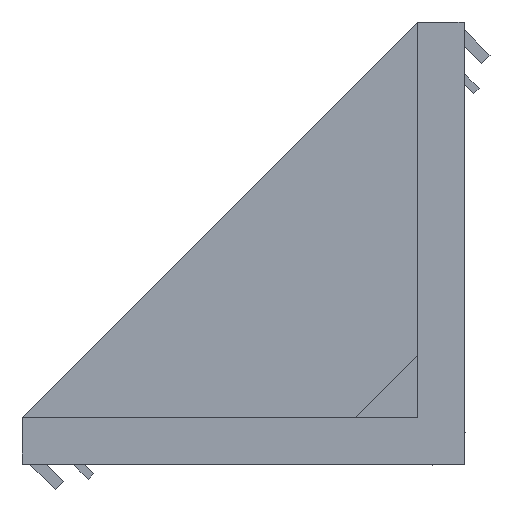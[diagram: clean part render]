
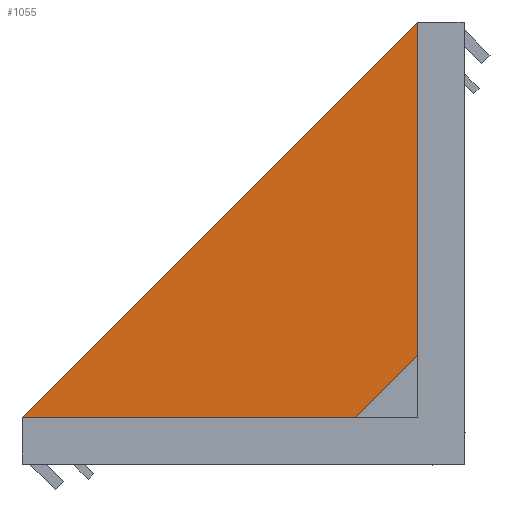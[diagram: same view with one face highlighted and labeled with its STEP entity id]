
A CAD part, left-side view. The second image highlights one B-rep face of the part: STEP entity #1055.
In plain terms, the highlighted planar face has unit normal (-1, 0, 0).
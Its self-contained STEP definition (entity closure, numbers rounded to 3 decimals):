
#192 = EDGE_CURVE ( 'NONE', #1490, #2336, #1472, .T. ) ;
#506 = PLANE ( 'NONE',  #1333 ) ;
#562 = CARTESIAN_POINT ( 'NONE',  ( 1.926, -9.916, 6. ) ) ;
#741 = LINE ( 'NONE', #3930, #3178 ) ;
#799 = FACE_OUTER_BOUND ( 'NONE', #4400, .T. ) ;
#1055 = ADVANCED_FACE ( 'NONE', ( #799 ), #506, .F. ) ;
#1329 = CARTESIAN_POINT ( 'NONE',  ( 1.926, -9.916, 6. ) ) ;
#1330 = EDGE_CURVE ( 'NONE', #2336, #1851, #741, .T. ) ;
#1333 = AXIS2_PLACEMENT_3D ( 'NONE', #1554, #3979, #1897 ) ;
#1472 = LINE ( 'NONE', #1329, #4135 ) ;
#1490 = VERTEX_POINT ( 'NONE', #562 ) ;
#1554 = CARTESIAN_POINT ( 'NONE',  ( 1.926, 0., 0. ) ) ;
#1585 = CARTESIAN_POINT ( 'NONE',  ( 1.926, -9.916, 57. ) ) ;
#1851 = VERTEX_POINT ( 'NONE', #1585 ) ;
#1897 = DIRECTION ( 'NONE',  ( 0., 1., 0. ) ) ;
#2124 = CARTESIAN_POINT ( 'NONE',  ( 1.926, -9.916, 57. ) ) ;
#2336 = VERTEX_POINT ( 'NONE', #2846 ) ;
#2342 = LINE ( 'NONE', #2124, #4080 ) ;
#2472 = DIRECTION ( 'NONE',  ( 0., 0., -1. ) ) ;
#2539 = DIRECTION ( 'NONE',  ( 0., -0.707, 0.707 ) ) ;
#2806 = ORIENTED_EDGE ( 'NONE', *, *, #1330, .F. ) ;
#2846 = CARTESIAN_POINT ( 'NONE',  ( 1.926, 41.084, 6. ) ) ;
#3066 = EDGE_CURVE ( 'NONE', #1851, #1490, #2342, .T. ) ;
#3178 = VECTOR ( 'NONE', #2539, 1000. ) ;
#3930 = CARTESIAN_POINT ( 'NONE',  ( 1.926, 41.084, 6. ) ) ;
#3979 = DIRECTION ( 'NONE',  ( 1., 0., 0. ) ) ;
#4080 = VECTOR ( 'NONE', #2472, 1000. ) ;
#4135 = VECTOR ( 'NONE', #4459, 1000. ) ;
#4254 = ORIENTED_EDGE ( 'NONE', *, *, #192, .F. ) ;
#4400 = EDGE_LOOP ( 'NONE', ( #2806, #4254, #4497 ) ) ;
#4459 = DIRECTION ( 'NONE',  ( 0., 1., 0. ) ) ;
#4497 = ORIENTED_EDGE ( 'NONE', *, *, #3066, .F. ) ;
